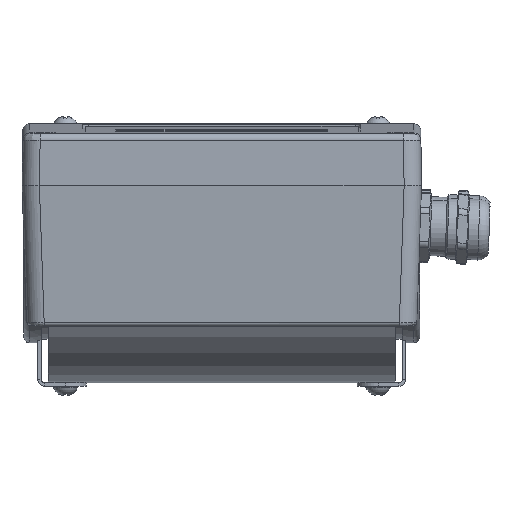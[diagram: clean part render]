
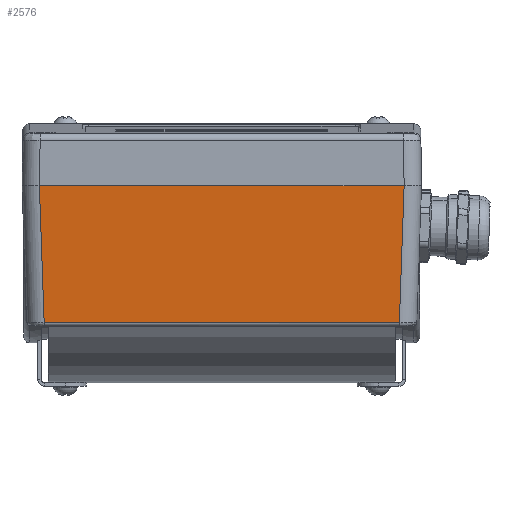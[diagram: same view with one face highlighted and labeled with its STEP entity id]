
A CAD part, top view. The second image highlights one B-rep face of the part: STEP entity #2576.
In plain terms, the highlighted planar face has unit normal (0, -0.07, 0.998).
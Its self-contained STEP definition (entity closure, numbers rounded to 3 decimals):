
#2576=ADVANCED_FACE('',(#10162),#10164,.T.);
#10162=FACE_BOUND('',#10163,.T.);
#10163=EDGE_LOOP('',(#22962,#22963,#22964,#22965,#22966,#22967));
#10164=PLANE('',#10165);
#10165=AXIS2_PLACEMENT_3D('',#10166,#10167,#10168);
#10166=CARTESIAN_POINT('',(-57.5,19.917,180.245));
#10167=DIRECTION('',(0.,-0.07,0.998));
#10168=DIRECTION('',(-1.,0.,0.));
#22962=ORIENTED_EDGE('',*,*,#26873,.F.);
#22963=ORIENTED_EDGE('',*,*,#26874,.T.);
#22964=ORIENTED_EDGE('',*,*,#26805,.F.);
#22965=ORIENTED_EDGE('',*,*,#26736,.F.);
#22966=ORIENTED_EDGE('',*,*,#26786,.F.);
#22967=ORIENTED_EDGE('',*,*,#26875,.T.);
#26736=EDGE_CURVE('',#29420,#29423,#29424,.T.);
#26786=EDGE_CURVE('',#29513,#29420,#29515,.T.);
#26805=EDGE_CURVE('',#29423,#29544,#29545,.T.);
#26873=EDGE_CURVE('',#29655,#29656,#29657,.F.);
#26874=EDGE_CURVE('',#29655,#29544,#29658,.T.);
#26875=EDGE_CURVE('',#29513,#29656,#29659,.T.);
#29420=VERTEX_POINT('',#35873);
#29423=VERTEX_POINT('',#35896);
#29424=LINE('',#35897,#35898);
#29513=VERTEX_POINT('',#36131);
#29515=LINE('',#36136,#36137);
#29544=VERTEX_POINT('',#36209);
#29545=LINE('',#36210,#36211);
#29655=VERTEX_POINT('',#36479);
#29656=VERTEX_POINT('',#36480);
#29657=LINE('',#36481,#36482);
#29658=LINE('',#36484,#36485);
#29659=LINE('',#36487,#36488);
#35873=CARTESIAN_POINT('',(51.122,-19.545,177.486));
#35896=CARTESIAN_POINT('',(-51.122,-19.545,177.486));
#35897=CARTESIAN_POINT('',(51.122,-19.545,177.486));
#35898=VECTOR('',#35899,1.);
#35899=DIRECTION('',(-1.,0.,0.));
#36131=CARTESIAN_POINT('',(52.503,19.917,180.245));
#36136=CARTESIAN_POINT('',(52.503,19.917,180.245));
#36137=VECTOR('',#36138,1.);
#36138=DIRECTION('',(-0.035,-0.997,-0.07));
#36209=CARTESIAN_POINT('',(-52.503,19.917,180.245));
#36210=CARTESIAN_POINT('',(-51.122,-19.545,177.486));
#36211=VECTOR('',#36212,1.);
#36212=DIRECTION('',(-0.035,0.997,0.07));
#36479=CARTESIAN_POINT('',(-52.501,19.917,180.245));
#36480=CARTESIAN_POINT('',(52.501,19.917,180.245));
#36481=CARTESIAN_POINT('',(52.501,19.917,180.245));
#36482=VECTOR('',#36483,1.);
#36483=DIRECTION('',(-1.,0.,0.));
#36484=CARTESIAN_POINT('',(-52.501,19.917,180.245));
#36485=VECTOR('',#36486,1.);
#36486=DIRECTION('',(-1.,0.,0.));
#36487=CARTESIAN_POINT('',(52.503,19.917,180.245));
#36488=VECTOR('',#36489,1.);
#36489=DIRECTION('',(-1.,0.,0.));
